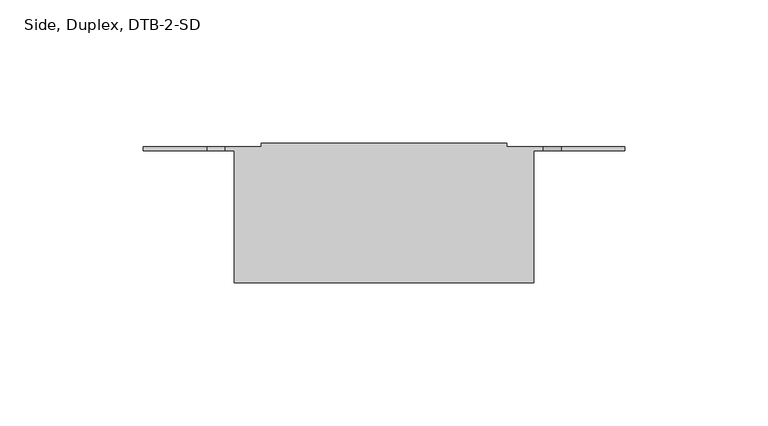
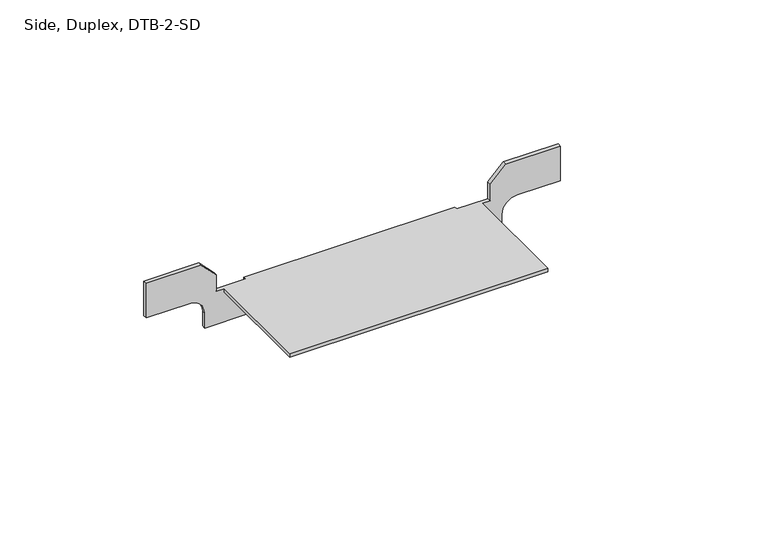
"""IFC4 building model written with IfcOpenShell, lengths in millimetres: proxy geometry, Device_Plate-Resource_Series-Wiremold-RFB4 : Side, Duplex, DTB-2-SD."""

from ifc_helpers import new_model, si_unit, frame, origin, place, context, project, spatial, polyline, circle_curve, source, transform, mapped, element, save
from ifc_brep_helpers import plane_surface, revolved_surface, advanced_brep


def side_duplex_dtb_2_sd_23a9a8d4(model_context):
    return source(origin(), model_context, "Body", "AdvancedBrep", [
        advanced_brep(
        [(42.8625, -806.3631318, 14.1015519), (-42.8625, -806.3631318, 14.1015519), (-42.8625, -807.5523799, 14.1015519), (-55.5498, -807.5523799, 14.1015519), (-55.5498, -809.0763799, 14.1015519), (-52.3748, -809.0763799, 14.1015519), (-52.3748, -855.0803318, 14.1015519), (52.3748, -855.0803318, 14.1015519), (52.3748, -809.0763799, 14.1015519), (55.5498, -809.0763799, 14.1015519), (55.5498, -807.5523799, 14.1015519), (42.8625, -807.5523799, 14.1015519), (52.3748, -809.0763799, 12.5775519), (52.3748, -855.0803318, 12.5775519), (-52.3748, -855.0803318, 12.5775519), (-52.3748, -809.0763799, 12.5775519), (-42.8625, -809.0763799, 12.5775519), (-42.8625, -807.5523799, 12.5775519), (-42.8625, -806.3631318, 12.5775519), (42.8625, -806.3631318, 12.5775519), (42.8625, -807.5523799, 12.5775519), (42.8625, -809.0763799, 12.5775519), (-61.8998, -809.0763799, 27.559), (-84.1375, -809.0763799, 27.559), (-84.1375, -809.0763799, 12.7), (-66.675, -809.0763799, 12.7), (-60.325, -809.0763799, 6.35), (-60.325, -809.0763799, 0.0), (-42.8625, -809.0763799, 0.0), (-55.5498, -809.0763799, 21.209), (61.8998, -809.0763799, 27.559), (55.5498, -809.0763799, 21.209), (42.8625, -809.0763799, 0.0), (60.325, -809.0763799, 0.0), (60.325, -809.0763799, 6.35), (66.675, -809.0763799, 12.7), (84.1375, -809.0763799, 12.7), (84.1375, -809.0763799, 27.559), (-61.8998, -807.5523799, 27.559), (-55.5498, -807.5523799, 21.209), (-42.8625, -807.5523799, 0.0), (-60.325, -807.5523799, 0.0), (-60.325, -807.5523799, 6.35), (-66.675, -807.5523799, 12.7), (-84.1375, -807.5523799, 12.7), (-84.1375, -807.5523799, 27.559), (61.8998, -807.5523799, 27.559), (84.1375, -807.5523799, 27.559), (84.1375, -807.5523799, 12.7), (66.675, -807.5523799, 12.7), (60.325, -807.5523799, 6.35), (60.325, -807.5523799, 0.0), (42.8625, -807.5523799, 0.0), (55.5498, -807.5523799, 21.209)],
        [
            (0, 1),
            (1, 2),
            (2, 3),
            (3, 4),
            (4, 5),
            (5, 6),
            (6, 7),
            (7, 8),
            (8, 9),
            (9, 10),
            (10, 11),
            (11, 0),
            (12, 13),
            (13, 14),
            (14, 15),
            (15, 16),
            (16, 17),
            (17, 18),
            (18, 19),
            (19, 20),
            (20, 21),
            (21, 12),
            (0, 19),
            (18, 1),
            (17, 2),
            (5, 15),
            (14, 6),
            (13, 7),
            (12, 8),
            (11, 20),
            (22, 23),
            (23, 24),
            (24, 25),
            (25, 26, circle_curve(frame((-66.675, -809.0763799, 6.35), z_axis=(0.0, 1.0, 0.0), x_axis=(1.0, 0.0, 0.0)), 6.35)),
            (26, 27),
            (27, 28),
            (28, 16),
            (4, 29),
            (29, 22),
            (30, 31),
            (31, 9),
            (21, 32),
            (32, 33),
            (33, 34),
            (34, 35, circle_curve(frame((66.675, -809.0763799, 6.35), z_axis=(0.0, 1.0, 0.0), x_axis=(1.0, 0.0, 0.0)), 6.35)),
            (35, 36),
            (36, 37),
            (37, 30),
            (38, 39),
            (39, 3),
            (17, 40),
            (40, 41),
            (41, 42),
            (42, 43, circle_curve(frame((-66.675, -807.5523799, 6.35), z_axis=(0.0, -1.0, 0.0), x_axis=(1.0, 0.0, 0.0)), 6.35)),
            (43, 44),
            (44, 45),
            (45, 38),
            (46, 47),
            (47, 48),
            (48, 49),
            (49, 50, circle_curve(frame((66.675, -807.5523799, 6.35), z_axis=(0.0, -1.0, 0.0), x_axis=(1.0, 0.0, 0.0)), 6.35)),
            (50, 51),
            (51, 52),
            (52, 20),
            (10, 53),
            (53, 46),
            (22, 38),
            (45, 23),
            (44, 24),
            (43, 25),
            (42, 26),
            (41, 27),
            (40, 28),
            (39, 29),
            (30, 46),
            (53, 31),
            (52, 32),
            (51, 33),
            (50, 34),
            (49, 35),
            (48, 36),
            (47, 37),
        ],
        [
            plane_surface(frame((-57.4496435, -806.3631318, 14.1015519), z_axis=(0.0, 0.0, 1.0), x_axis=(-1.0, 0.0, 0.0))),
            plane_surface(frame((-57.4496435, -806.3631318, 12.5775519), z_axis=(0.0, 0.0, -1.0), x_axis=(1.0, 0.0, 0.0))),
            plane_surface(frame((42.8625, -806.3631318, 14.1015519), z_axis=(0.0, 1.0, 0.0), x_axis=(0.0, 0.0, -1.0))),
            plane_surface(frame((-42.8625, -806.3631318, 14.1015519), z_axis=(-1.0, 0.0, 0.0), x_axis=(0.0, 0.0, -1.0))),
            plane_surface(frame((-52.3748, -809.0763799, 14.1015519), z_axis=(-1.0, 0.0, 0.0), x_axis=(0.0, 0.0, -1.0))),
            plane_surface(frame((-52.3748, -855.0803318, 14.1015519), z_axis=(0.0, -1.0, 0.0), x_axis=(0.0, 0.0, -1.0))),
            plane_surface(frame((52.3748, -855.0803318, 14.1015519), z_axis=(1.0, 0.0, 0.0), x_axis=(0.0, 0.0, -1.0))),
            plane_surface(frame((42.8625, -809.0763799, 14.1015519), z_axis=(1.0, 0.0, 0.0), x_axis=(0.0, 0.0, -1.0))),
            plane_surface(frame((-61.8998, -809.0763799, 27.559), z_axis=(0.0, -1.0, 0.0), x_axis=(-1.0, 0.0, 0.0))),
            plane_surface(frame((-61.8998, -807.5523799, 27.559), z_axis=(0.0, 1.0, 0.0), x_axis=(1.0, 0.0, 0.0))),
            plane_surface(frame((-61.8998, -809.0763799, 27.559), z_axis=(0.0, 0.0, 1.0), x_axis=(0.0, 1.0, 0.0))),
            plane_surface(frame((-84.1375, -809.0763799, 27.559), z_axis=(-1.0, 0.0, 0.0), x_axis=(0.0, 1.0, 0.0))),
            plane_surface(frame((-84.1375, -809.0763799, 12.7), z_axis=(0.0, 0.0, -1.0), x_axis=(0.0, 1.0, 0.0))),
            revolved_surface(polyline([(-60.324999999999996, -807.5523799, 6.35), (-60.324999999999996, -809.0763799, 6.35)]), (-66.675, -807.5523799, 6.35), (0.0, 1.0, 0.0)),
            plane_surface(frame((-60.325, -809.0763799, 6.35), z_axis=(-1.0, 0.0, 0.0), x_axis=(0.0, 1.0, 0.0))),
            plane_surface(frame((-60.325, -809.0763799, 0.0), z_axis=(0.0, 0.0, -1.0), x_axis=(0.0, 1.0, 0.0))),
            plane_surface(frame((-42.8625, -809.0763799, 0.0), z_axis=(1.0, 0.0, 0.0), x_axis=(0.0, 1.0, 0.0))),
            plane_surface(frame((-55.5498, -809.0763799, 14.1015519), z_axis=(1.0, 0.0, 0.0), x_axis=(0.0, 1.0, 0.0))),
            plane_surface(frame((-55.5498, -809.0763799, 21.209), z_axis=(0.7071067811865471, 0.0, 0.707106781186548), x_axis=(0.0, 1.0, 0.0))),
            plane_surface(frame((61.8998, -809.0763799, 27.559), z_axis=(-0.7071067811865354, 0.0, 0.7071067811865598), x_axis=(0.0, 1.0, 0.0))),
            plane_surface(frame((55.5498, -809.0763799, 21.209), z_axis=(-1.0, 0.0, 0.0), x_axis=(0.0, 1.0, 0.0))),
            plane_surface(frame((42.8625, -809.0763799, 14.1015519), z_axis=(-1.0, 0.0, 0.0), x_axis=(0.0, 1.0, 0.0))),
            plane_surface(frame((42.8625, -809.0763799, 0.0), z_axis=(0.0, 0.0, -1.0), x_axis=(0.0, 1.0, 0.0))),
            plane_surface(frame((60.325, -809.0763799, 0.0), z_axis=(1.0, 0.0, 0.0), x_axis=(0.0, 1.0, 0.0))),
            revolved_surface(polyline([(73.02499999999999, -807.5523799, 6.35), (73.02499999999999, -809.0763799, 6.35)]), (66.675, -0.9586394, 6.35), (0.0, 1.0, 0.0)),
            plane_surface(frame((66.675, -809.0763799, 12.7), z_axis=(0.0, 0.0, -1.0), x_axis=(0.0, 1.0, 0.0))),
            plane_surface(frame((84.1375, -809.0763799, 12.7), z_axis=(1.0, 0.0, 0.0), x_axis=(0.0, 1.0, 0.0))),
            plane_surface(frame((84.1375, -809.0763799, 27.559), z_axis=(0.0, 0.0, 1.0), x_axis=(0.0, 1.0, 0.0))),
        ],
        [
            (0, [[1, 2, 3, 4, 5, 6, 7, 8, 9, 10, 11, 12]]),
            (1, [[13, 14, 15, 16, 17, 18, 19, 20, 21, 22]]),
            (2, [[-1, 23, -19, 24]]),
            (3, [[-24, -18, 25, -2]]),
            (4, [[-6, 26, -15, 27]]),
            (5, [[-7, -27, -14, 28]]),
            (6, [[-8, -28, -13, 29]]),
            (7, [[-23, -12, 30, -20]]),
            (8, [[31, 32, 33, 34, 35, 36, 37, -16, -26, -5, 38, 39]]),
            (8, [[40, 41, -9, -29, -22, 42, 43, 44, 45, 46, 47, 48]]),
            (9, [[49, 50, -3, -25, 51, 52, 53, 54, 55, 56, 57]]),
            (9, [[58, 59, 60, 61, 62, 63, 64, -30, -11, 65, 66]]),
            (10, [[-31, 67, -57, 68]]),
            (11, [[-32, -68, -56, 69]]),
            (12, [[-33, -69, -55, 70]]),
            (13, [[-34, -70, -54, 71]]),
            (14, [[-35, -71, -53, 72]]),
            (15, [[-36, -72, -52, 73]]),
            (16, [[-73, -51, -17, -37]]),
            (17, [[-38, -4, -50, 74]]),
            (18, [[-39, -74, -49, -67]]),
            (19, [[-40, 75, -66, 76]]),
            (20, [[-41, -76, -65, -10]]),
            (21, [[77, -42, -21, -64]]),
            (22, [[-43, -77, -63, 78]]),
            (23, [[-44, -78, -62, 79]]),
            (24, [[-45, -79, -61, 80]]),
            (25, [[-46, -80, -60, 81]]),
            (26, [[-47, -81, -59, 82]]),
            (27, [[-48, -82, -58, -75]]),
        ],
    ),
    ])


if __name__ == "__main__":
    model = new_model("IFC4")
    model_context = context("Model", 3, world=origin())
    ifc_project = project(units=[si_unit("LENGTHUNIT", "METRE", prefix="MILLI")], contexts=[model_context])
    site = spatial("IfcSite", under=ifc_project)
    building = spatial("IfcBuilding", under=site)
    placement = place(None, origin())
    side_duplex_dtb_2_sd_shape = side_duplex_dtb_2_sd_23a9a8d4(model_context)
    element("IfcBuildingElementProxy", 1, Name="Device_Plate-Resource_Series-Wiremold-RFB4 : Side, Duplex, DTB-2-SD", ObjectType="Device_Plate-Resource_Series-Wiremold-RFB4 : Side, Duplex, DTB-2-SD", at=placement, inside=building, context=model_context, shape_type="MappedRepresentation", body=[
        mapped(side_duplex_dtb_2_sd_shape, transform((0.0, 0.0, 0.0), x_axis=(1.0, 0.0, 0.0), y_axis=(0.0, 1.0, 0.0), z_axis=(0.0, 0.0, 1.0))),
    ])
    save(model, "model.ifc")
